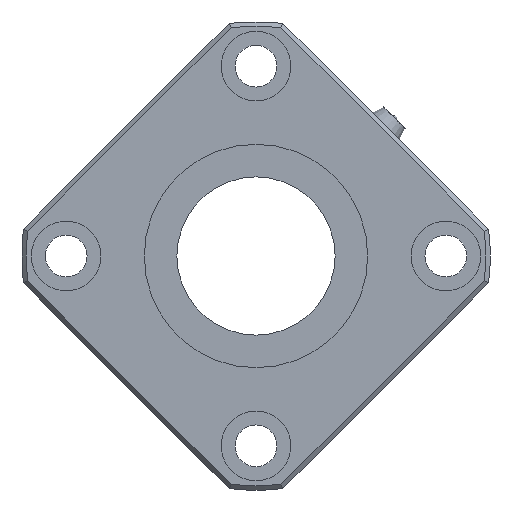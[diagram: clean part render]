
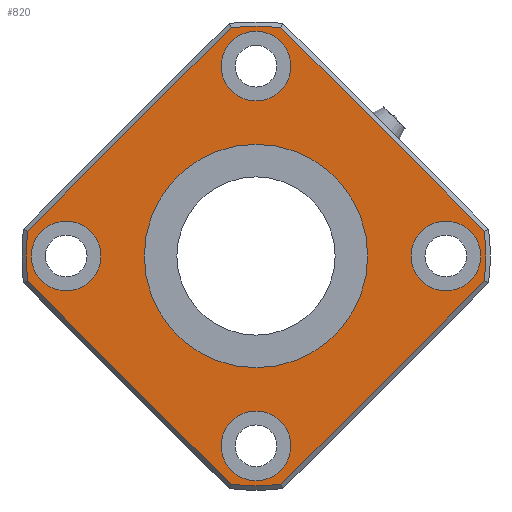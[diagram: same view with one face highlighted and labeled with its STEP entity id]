
A CAD part, left-side view. The second image highlights one B-rep face of the part: STEP entity #820.
In plain terms, the highlighted planar face has unit normal (-1, 0, 0).
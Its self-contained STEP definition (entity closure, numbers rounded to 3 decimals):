
#499=CARTESIAN_POINT('',(0.0,-36.086,-3.936));
#500=VERTEX_POINT('',#499);
#508=CARTESIAN_POINT('',(0.0,-3.936,-36.086));
#509=VERTEX_POINT('',#508);
#510=CARTESIAN_POINT('',(0.0,-36.086,-3.936));
#511=DIRECTION('',(0.0,0.707,-0.707));
#512=VECTOR('',#511,45.466);
#513=LINE('',#510,#512);
#514=EDGE_CURVE('',#500,#509,#513,.T.);
#541=CARTESIAN_POINT('',(0.0,3.936,-36.086));
#542=VERTEX_POINT('',#541);
#543=CARTESIAN_POINT('',(0.0,0.0,0.0));
#544=DIRECTION('',(1.0,0.0,0.0));
#545=DIRECTION('',(0.0,0.0,-1.0));
#546=AXIS2_PLACEMENT_3D('',#543,#544,#545);
#547=CIRCLE('',#546,36.3);
#548=EDGE_CURVE('',#509,#542,#547,.T.);
#572=CARTESIAN_POINT('',(0.0,36.086,-3.936));
#573=VERTEX_POINT('',#572);
#574=CARTESIAN_POINT('',(0.0,3.936,-36.086));
#575=DIRECTION('',(0.0,0.707,0.707));
#576=VECTOR('',#575,45.466);
#577=LINE('',#574,#576);
#578=EDGE_CURVE('',#542,#573,#577,.T.);
#597=CARTESIAN_POINT('',(0.0,36.086,3.936));
#598=VERTEX_POINT('',#597);
#599=CARTESIAN_POINT('',(0.0,0.0,0.0));
#600=DIRECTION('',(1.0,0.0,0.0));
#601=DIRECTION('',(0.0,0.0,1.0));
#602=AXIS2_PLACEMENT_3D('',#599,#600,#601);
#603=CIRCLE('',#602,36.3);
#604=EDGE_CURVE('',#573,#598,#603,.T.);
#623=CARTESIAN_POINT('',(0.0,3.936,36.086));
#624=VERTEX_POINT('',#623);
#625=CARTESIAN_POINT('',(0.0,36.086,3.936));
#626=DIRECTION('',(0.0,-0.707,0.707));
#627=VECTOR('',#626,45.466);
#628=LINE('',#625,#627);
#629=EDGE_CURVE('',#598,#624,#628,.T.);
#648=CARTESIAN_POINT('',(0.0,-3.936,36.086));
#649=VERTEX_POINT('',#648);
#650=CARTESIAN_POINT('',(0.0,0.0,0.0));
#651=DIRECTION('',(1.0,0.0,0.0));
#652=DIRECTION('',(0.0,0.0,1.0));
#653=AXIS2_PLACEMENT_3D('',#650,#651,#652);
#654=CIRCLE('',#653,36.3);
#655=EDGE_CURVE('',#624,#649,#654,.T.);
#674=CARTESIAN_POINT('',(0.0,-36.086,3.936));
#675=VERTEX_POINT('',#674);
#676=CARTESIAN_POINT('',(0.0,-3.936,36.086));
#677=DIRECTION('',(0.0,-0.707,-0.707));
#678=VECTOR('',#677,45.466);
#679=LINE('',#676,#678);
#680=EDGE_CURVE('',#649,#675,#679,.T.);
#705=CARTESIAN_POINT('',(0.0,0.0,0.0));
#706=DIRECTION('',(1.0,0.0,0.0));
#707=DIRECTION('',(0.0,0.0,1.0));
#708=AXIS2_PLACEMENT_3D('',#705,#706,#707);
#709=CIRCLE('',#708,36.3);
#710=EDGE_CURVE('',#675,#500,#709,.T.);
#750=CARTESIAN_POINT('',(0.0,0.0,20.075));
#751=DIRECTION('',(-1.0,0.0,0.0));
#752=DIRECTION('',(0.0,0.0,1.0));
#753=AXIS2_PLACEMENT_3D('',#750,#751,#752);
#754=PLANE('',#753);
#755=ORIENTED_EDGE('',*,*,#514,.F.);
#756=ORIENTED_EDGE('',*,*,#710,.F.);
#757=ORIENTED_EDGE('',*,*,#680,.F.);
#758=ORIENTED_EDGE('',*,*,#655,.F.);
#759=ORIENTED_EDGE('',*,*,#629,.F.);
#760=ORIENTED_EDGE('',*,*,#604,.F.);
#761=ORIENTED_EDGE('',*,*,#578,.F.);
#762=ORIENTED_EDGE('',*,*,#548,.F.);
#763=EDGE_LOOP('',(#755,#756,#757,#758,#759,#760,#761,#762));
#764=FACE_OUTER_BOUND('',#763,.T.);
#765=CARTESIAN_POINT('',(0.0,0.0,17.65));
#766=VERTEX_POINT('',#765);
#767=CARTESIAN_POINT('',(0.0,0.0,0.0));
#768=DIRECTION('',(-1.0,0.0,0.0));
#769=DIRECTION('',(0.0,0.0,1.0));
#770=AXIS2_PLACEMENT_3D('',#767,#768,#769);
#771=CIRCLE('',#770,17.65);
#772=EDGE_CURVE('',#766,#766,#771,.T.);
#773=ORIENTED_EDGE('',*,*,#772,.F.);
#774=EDGE_LOOP('',(#773));
#775=FACE_BOUND('',#774,.T.);
#776=CARTESIAN_POINT('',(0.0,-24.5,0.));
#777=VERTEX_POINT('',#776);
#778=CARTESIAN_POINT('',(0.0,-30.0,0.));
#779=DIRECTION('',(1.0,0.0,0.0));
#780=DIRECTION('',(0.0,1.0,0.0));
#781=AXIS2_PLACEMENT_3D('',#778,#779,#780);
#782=CIRCLE('',#781,5.5);
#783=EDGE_CURVE('',#777,#777,#782,.T.);
#784=ORIENTED_EDGE('',*,*,#783,.T.);
#785=EDGE_LOOP('',(#784));
#786=FACE_BOUND('',#785,.T.);
#787=CARTESIAN_POINT('',(0.0,35.5,0.));
#788=VERTEX_POINT('',#787);
#789=CARTESIAN_POINT('',(0.0,30.0,0.));
#790=DIRECTION('',(1.0,0.0,0.0));
#791=DIRECTION('',(0.0,1.0,0.0));
#792=AXIS2_PLACEMENT_3D('',#789,#790,#791);
#793=CIRCLE('',#792,5.5);
#794=EDGE_CURVE('',#788,#788,#793,.T.);
#795=ORIENTED_EDGE('',*,*,#794,.T.);
#796=EDGE_LOOP('',(#795));
#797=FACE_BOUND('',#796,.T.);
#798=CARTESIAN_POINT('',(0.0,5.5,30.0));
#799=VERTEX_POINT('',#798);
#800=CARTESIAN_POINT('',(0.0,0.,30.0));
#801=DIRECTION('',(1.0,0.0,0.0));
#802=DIRECTION('',(0.0,1.0,0.0));
#803=AXIS2_PLACEMENT_3D('',#800,#801,#802);
#804=CIRCLE('',#803,5.5);
#805=EDGE_CURVE('',#799,#799,#804,.T.);
#806=ORIENTED_EDGE('',*,*,#805,.T.);
#807=EDGE_LOOP('',(#806));
#808=FACE_BOUND('',#807,.T.);
#809=CARTESIAN_POINT('',(0.0,5.5,-30.0));
#810=VERTEX_POINT('',#809);
#811=CARTESIAN_POINT('',(0.0,0.,-30.0));
#812=DIRECTION('',(1.0,0.0,0.0));
#813=DIRECTION('',(0.0,1.0,0.0));
#814=AXIS2_PLACEMENT_3D('',#811,#812,#813);
#815=CIRCLE('',#814,5.5);
#816=EDGE_CURVE('',#810,#810,#815,.T.);
#817=ORIENTED_EDGE('',*,*,#816,.T.);
#818=EDGE_LOOP('',(#817));
#819=FACE_BOUND('',#818,.T.);
#820=ADVANCED_FACE('',(#764,#775,#786,#797,#808,#819),#754,.T.);
